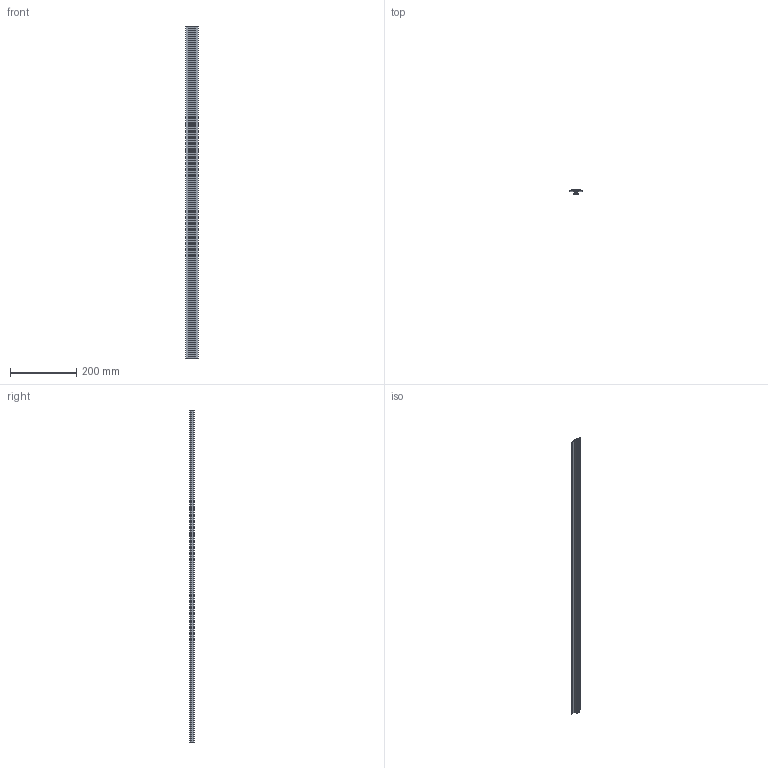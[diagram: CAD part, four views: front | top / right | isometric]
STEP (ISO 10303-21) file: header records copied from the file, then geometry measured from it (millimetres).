
FILE_DESCRIPTION(/* description */ ('STEP AP214'),/* implementation_level */ '2;1');
FILE_NAME(/* name */ '092323',/* time_stamp */ '2023-08-29T08:47:04+02:00',/* author */ ('License CC BY-ND 4.0'),/* organization */ ('CADENAS'),/* preprocessor_version */ 'ST-DEVELOPER v19.3',/* originating_system */ 'PARTsolutions',/* authorisation */ ' ');
FILE_SCHEMA (('AUTOMOTIVE_DESIGN {1 0 10303 214 3 1 1}'));
Length unit declared in the file: millimetre
Products named in the file (1): 092323
Bounding box: 38.98 x 14.49 x 1000 mm (x, y, z)
Volume: 181299.7 mm3; surface area: 155338.4 mm2
Topology: 1 solids, 1 shells, 164 faces, 486 edges, 324 vertices
Faces by surface type: plane 85, cylinder 79
Entity records: 5562 total; most frequent: CARTESIAN_POINT 975, DIRECTION 974, ORIENTED_EDGE 972, EDGE_CURVE 486, LINE 328, VECTOR 328, VERTEX_POINT 324, AXIS2_PLACEMENT_3D 323
